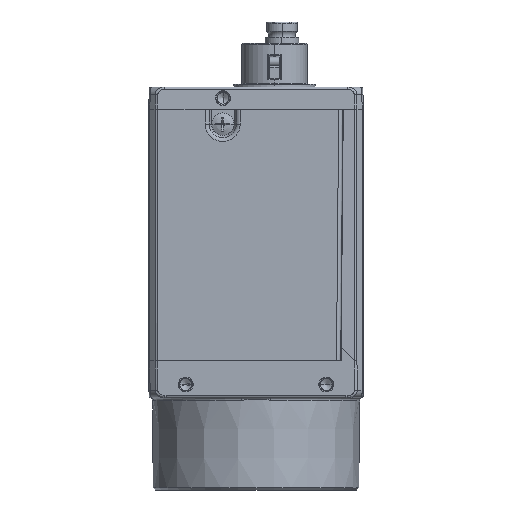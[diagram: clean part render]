
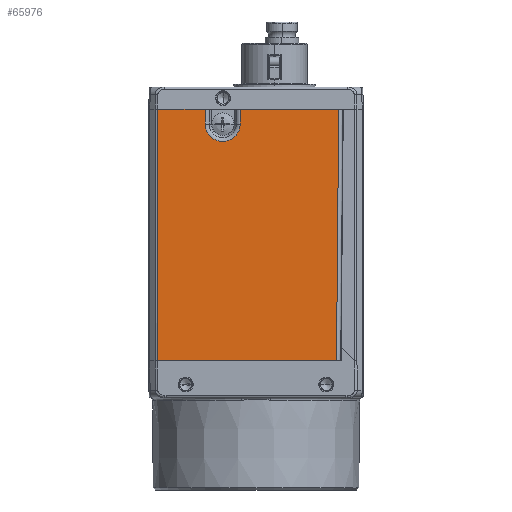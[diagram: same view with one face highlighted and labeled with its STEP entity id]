
A CAD part, left-side view. The second image highlights one B-rep face of the part: STEP entity #65976.
In plain terms, the highlighted planar face has unit normal (-1, 0, 0).
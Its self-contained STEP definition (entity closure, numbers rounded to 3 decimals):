
#12589=CARTESIAN_POINT('',(-14.5,13.293,
33.5));
#12603=DIRECTION('',(0.,-1.,0.));
#12604=VECTOR('',#12603,6.435);
#12605=CARTESIAN_POINT('',(-14.5,13.293,
33.5));
#12606=LINE('',#12605,#12604);
#12607=CARTESIAN_POINT('',(-14.5,4.5,31.5));
#12608=DIRECTION('',(-1.,0.,0.));
#12609=DIRECTION('',(0.,1.,0.));
#12610=AXIS2_PLACEMENT_3D('',#12607,#12608,#12609);
#12612=DIRECTION('',(0.,-1.,0.));
#12613=VECTOR('',#12612,13.318);
#12614=CARTESIAN_POINT('',(-14.5,2.142,33.5));
#12615=LINE('',#12614,#12613);
#12616=DIRECTION('',(0.,0.009,-1.));
#12617=VECTOR('',#12616,34.001);
#12618=CARTESIAN_POINT('',(-14.5,-11.177,
33.5));
#12619=LINE('',#12618,#12617);
#12620=DIRECTION('',(0.,0.,1.));
#12621=VECTOR('',#12620,34.);
#12622=CARTESIAN_POINT('',(-14.5,13.293,-0.5));
#12623=LINE('',#12622,#12621);
#12634=DIRECTION('',(0.,0.,1.));
#12635=VECTOR('',#12634,2.);
#12636=CARTESIAN_POINT('',(-14.5,6.858,31.5));
#12637=LINE('',#12636,#12635);
#12690=DIRECTION('',(0.,0.,-1.));
#12691=VECTOR('',#12690,2.);
#12692=CARTESIAN_POINT('',(-14.5,2.142,33.5));
#12693=LINE('',#12692,#12691);
#13270=DIRECTION('',(0.,-1.,0.));
#13271=VECTOR('',#13270,24.173);
#13272=CARTESIAN_POINT('',(-14.5,13.293,-0.5));
#13273=LINE('',#13272,#13271);
#51571=CARTESIAN_POINT('',(-14.5,13.293,-0.5));
#51572=VERTEX_POINT('',#51571);
#51573=CARTESIAN_POINT('',(-14.5,6.858,31.5));
#51574=CARTESIAN_POINT('',(-14.5,2.142,31.5));
#51575=VERTEX_POINT('',#51573);
#51576=VERTEX_POINT('',#51574);
#51581=CARTESIAN_POINT('',(-14.5,-10.88,-0.5));
#51583=VERTEX_POINT('',#51581);
#57816=VERTEX_POINT('',#12589);
#57817=CARTESIAN_POINT('',(-14.5,6.858,33.5));
#57818=VERTEX_POINT('',#57817);
#57819=CARTESIAN_POINT('',(-14.5,2.142,33.5));
#57820=CARTESIAN_POINT('',(-14.5,-11.177,
33.5));
#57821=VERTEX_POINT('',#57819);
#57822=VERTEX_POINT('',#57820);
#65956=CARTESIAN_POINT('',(-14.5,1.058,16.5));
#65957=DIRECTION('',(1.,0.,0.));
#65958=DIRECTION('',(0.,-1.,0.));
#65959=AXIS2_PLACEMENT_3D('',#65956,#65957,#65958);
#65960=PLANE('',#65959);
#65961=ORIENTED_EDGE('',*,*,#65740,.T.);
#65963=ORIENTED_EDGE('',*,*,#65962,.F.);
#65965=ORIENTED_EDGE('',*,*,#65964,.T.);
#65967=ORIENTED_EDGE('',*,*,#65966,.F.);
#65968=ORIENTED_EDGE('',*,*,#65737,.T.);
#65970=ORIENTED_EDGE('',*,*,#65969,.T.);
#65972=ORIENTED_EDGE('',*,*,#65971,.F.);
#65973=ORIENTED_EDGE('',*,*,#65947,.T.);
#65974=EDGE_LOOP('',(#65961,#65963,#65965,#65967,#65968,#65970,#65972,#65973));
#65975=FACE_OUTER_BOUND('',#65974,.F.);
#65976=ADVANCED_FACE('',(#65975),#65960,.F.);
#12611=CIRCLE('',#12610,2.358);
#65737=EDGE_CURVE('',#57821,#57822,#12615,.T.);
#65740=EDGE_CURVE('',#57816,#57818,#12606,.T.);
#65947=EDGE_CURVE('',#51572,#57816,#12623,.T.);
#65962=EDGE_CURVE('',#51575,#57818,#12637,.T.);
#65964=EDGE_CURVE('',#51575,#51576,#12611,.T.);
#65966=EDGE_CURVE('',#57821,#51576,#12693,.T.);
#65969=EDGE_CURVE('',#57822,#51583,#12619,.T.);
#65971=EDGE_CURVE('',#51572,#51583,#13273,.T.);
